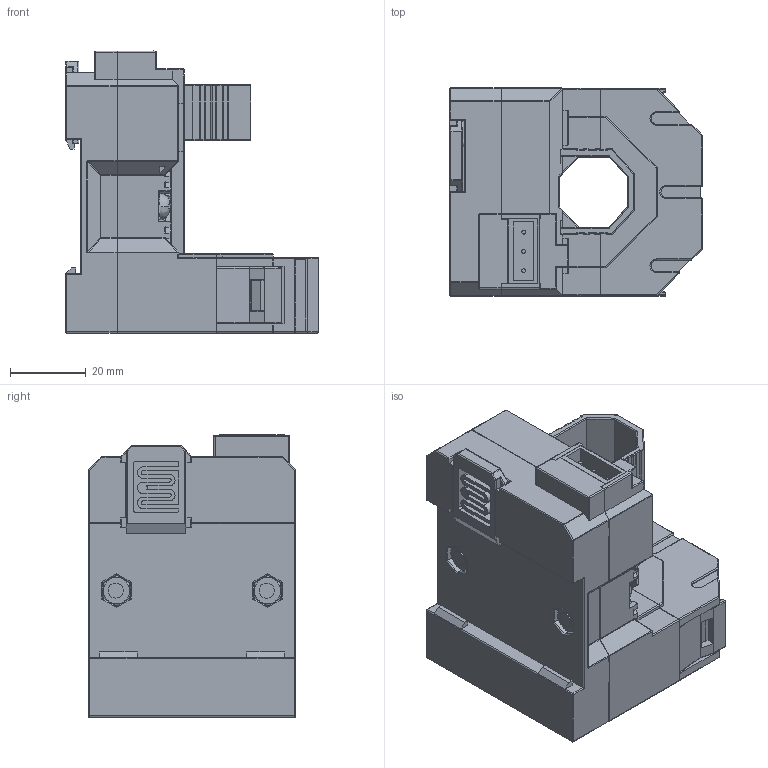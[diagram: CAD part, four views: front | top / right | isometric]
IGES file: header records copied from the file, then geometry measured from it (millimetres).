
Start section: Elysium IGES Interface
Global section: file name: 92HC:\Documents and Settings\tah\デスクトップ\BLACK_BOX\APR\AP_APR xxx_Bxxx\AP_APR xxx_Bxxx.igs; native system: CoCreate Modeling 17.00A  17-Jun-2010; preprocessor: CoCreate IGES_3D V2.2; author: Unknown; organization: Unknown; date: 20140317.113952; units: millimetre
Bounding box: 67 x 55 x 74.75 mm (x, y, z)
Volume: 131119.3 mm3; surface area: 30357.3 mm2
Topology: 1 solids, 2 shells, 1237 faces, 3211 edges, 1894 vertices
Faces by surface type: bspline 1237
